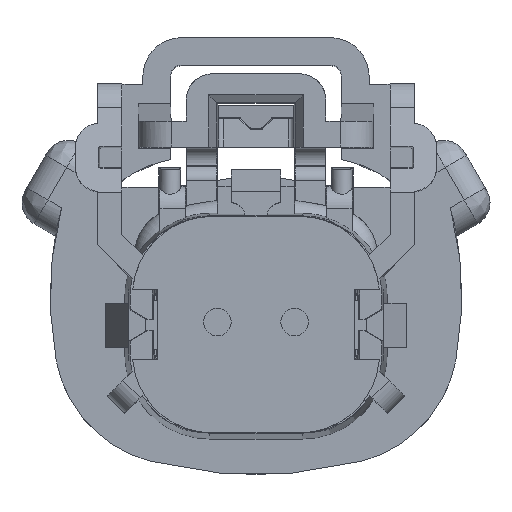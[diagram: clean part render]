
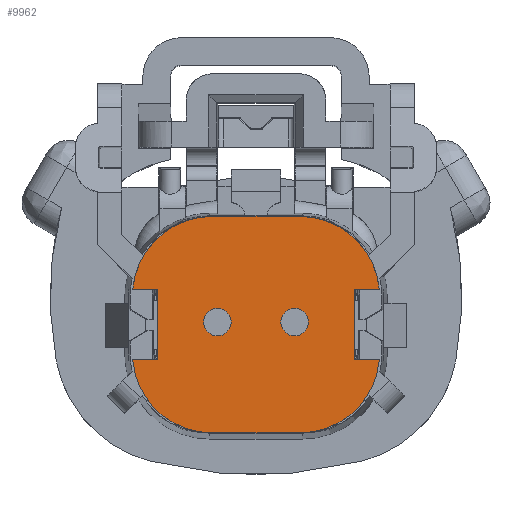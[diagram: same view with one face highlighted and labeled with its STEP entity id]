
A CAD part, top view. The second image highlights one B-rep face of the part: STEP entity #9962.
In plain terms, the highlighted planar face has unit normal (0, 0, 1).
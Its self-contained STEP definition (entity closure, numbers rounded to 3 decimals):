
#23=CARTESIAN_POINT('',(-58.852,-37.916,2.15));
#24=DIRECTION('',(0.,0.,1.));
#25=DIRECTION('',(-0.997,-0.083,0.));
#26=AXIS2_PLACEMENT_3D('',#23,#24,#25);
#28=DIRECTION('',(-1.,0.,0.));
#29=VECTOR('',#28,1.132);
#30=CARTESIAN_POINT('',(-61.307,-38.216,2.15));
#31=LINE('',#30,#29);
#32=DIRECTION('',(0.,-1.,0.));
#33=VECTOR('',#32,3.2);
#34=CARTESIAN_POINT('',(-61.307,-35.016,2.15));
#35=LINE('',#34,#33);
#36=DIRECTION('',(1.,0.,0.));
#37=VECTOR('',#36,1.132);
#38=CARTESIAN_POINT('',(-62.439,-35.016,2.15));
#39=LINE('',#38,#37);
#40=CARTESIAN_POINT('',(-58.852,-35.316,2.15));
#41=DIRECTION('',(0.,0.,1.));
#42=DIRECTION('',(0.,1.,0.));
#43=AXIS2_PLACEMENT_3D('',#40,#41,#42);
#45=CARTESIAN_POINT('',(-54.862,-35.316,2.15));
#46=DIRECTION('',(0.,0.,1.));
#47=DIRECTION('',(0.997,0.083,0.));
#48=AXIS2_PLACEMENT_3D('',#45,#46,#47);
#50=DIRECTION('',(0.,1.,0.));
#51=VECTOR('',#50,3.2);
#52=CARTESIAN_POINT('',(-52.407,-38.216,2.15));
#53=LINE('',#52,#51);
#54=CARTESIAN_POINT('',(-54.862,-37.916,2.15));
#55=DIRECTION('',(0.,0.,1.));
#56=DIRECTION('',(0.,-1.,0.));
#57=AXIS2_PLACEMENT_3D('',#54,#55,#56);
#59=CARTESIAN_POINT('',(-55.107,-36.499,2.15));
#60=DIRECTION('',(0.,0.,-1.));
#61=DIRECTION('',(1.,0.,0.));
#62=AXIS2_PLACEMENT_3D('',#59,#60,#61);
#64=CARTESIAN_POINT('',(-55.107,-36.499,2.15));
#65=DIRECTION('',(0.,0.,-1.));
#66=DIRECTION('',(-1.,0.,0.));
#67=AXIS2_PLACEMENT_3D('',#64,#65,#66);
#69=CARTESIAN_POINT('',(-58.607,-36.499,2.15));
#70=DIRECTION('',(0.,0.,-1.));
#71=DIRECTION('',(1.,0.,0.));
#72=AXIS2_PLACEMENT_3D('',#69,#70,#71);
#74=CARTESIAN_POINT('',(-58.607,-36.499,2.15));
#75=DIRECTION('',(0.,0.,-1.));
#76=DIRECTION('',(-1.,0.,0.));
#77=AXIS2_PLACEMENT_3D('',#74,#75,#76);
#595=DIRECTION('',(1.,0.,0.));
#596=VECTOR('',#595,3.99);
#597=CARTESIAN_POINT('',(-58.852,-31.716,2.15));
#598=LINE('',#597,#596);
#5607=DIRECTION('',(1.,0.,0.));
#5608=VECTOR('',#5607,1.132);
#5609=CARTESIAN_POINT('',(-52.407,-38.216,2.15));
#5610=LINE('',#5609,#5608);
#5623=DIRECTION('',(-1.,0.,0.));
#5624=VECTOR('',#5623,3.99);
#5625=CARTESIAN_POINT('',(-54.862,-41.516,2.15));
#5626=LINE('',#5625,#5624);
#5667=DIRECTION('',(-1.,0.,0.));
#5668=VECTOR('',#5667,1.132);
#5669=CARTESIAN_POINT('',(-51.274,-35.016,2.15));
#5670=LINE('',#5669,#5668);
#8017=CARTESIAN_POINT('',(-52.407,-38.216,2.15));
#8018=VERTEX_POINT('',#8017);
#8019=CARTESIAN_POINT('',(-51.274,-38.216,2.15));
#8020=VERTEX_POINT('',#8019);
#8034=CARTESIAN_POINT('',(-52.407,-35.016,2.15));
#8036=VERTEX_POINT('',#8034);
#9121=CARTESIAN_POINT('',(-54.862,-41.516,2.15));
#9122=CARTESIAN_POINT('',(-58.852,-41.516,2.15));
#9123=VERTEX_POINT('',#9121);
#9124=VERTEX_POINT('',#9122);
#9178=CARTESIAN_POINT('',(-58.852,-31.716,2.15));
#9179=CARTESIAN_POINT('',(-62.439,-35.016,2.15));
#9180=VERTEX_POINT('',#9178);
#9181=VERTEX_POINT('',#9179);
#9202=CARTESIAN_POINT('',(-62.439,-38.216,2.15));
#9203=VERTEX_POINT('',#9202);
#9204=CARTESIAN_POINT('',(-51.274,-35.016,2.15));
#9205=VERTEX_POINT('',#9204);
#9206=CARTESIAN_POINT('',(-54.862,-31.716,2.15));
#9207=VERTEX_POINT('',#9206);
#9208=CARTESIAN_POINT('',(-61.307,-35.016,2.15));
#9209=VERTEX_POINT('',#9208);
#9210=CARTESIAN_POINT('',(-61.307,-38.216,2.15));
#9211=VERTEX_POINT('',#9210);
#9212=CARTESIAN_POINT('',(-54.482,-36.499,2.15));
#9213=CARTESIAN_POINT('',(-55.732,-36.499,2.15));
#9214=VERTEX_POINT('',#9212);
#9215=VERTEX_POINT('',#9213);
#9216=CARTESIAN_POINT('',(-57.982,-36.499,2.15));
#9217=CARTESIAN_POINT('',(-59.232,-36.499,2.15));
#9218=VERTEX_POINT('',#9216);
#9219=VERTEX_POINT('',#9217);
#9920=CARTESIAN_POINT('',(-62.723,-41.765,2.15));
#9921=DIRECTION('',(0.,0.,1.));
#9922=DIRECTION('',(1.,0.,0.));
#9923=AXIS2_PLACEMENT_3D('',#9920,#9921,#9922);
#9924=PLANE('',#9923);
#9926=ORIENTED_EDGE('',*,*,#9925,.F.);
#9928=ORIENTED_EDGE('',*,*,#9927,.F.);
#9930=ORIENTED_EDGE('',*,*,#9929,.F.);
#9931=ORIENTED_EDGE('',*,*,#9906,.F.);
#9933=ORIENTED_EDGE('',*,*,#9932,.F.);
#9935=ORIENTED_EDGE('',*,*,#9934,.T.);
#9937=ORIENTED_EDGE('',*,*,#9936,.F.);
#9939=ORIENTED_EDGE('',*,*,#9938,.T.);
#9941=ORIENTED_EDGE('',*,*,#9940,.F.);
#9943=ORIENTED_EDGE('',*,*,#9942,.T.);
#9945=ORIENTED_EDGE('',*,*,#9944,.F.);
#9947=ORIENTED_EDGE('',*,*,#9946,.T.);
#9948=EDGE_LOOP('',(#9926,#9928,#9930,#9931,#9933,#9935,#9937,#9939,#9941,#9943,
#9945,#9947));
#9949=FACE_OUTER_BOUND('',#9948,.F.);
#9951=ORIENTED_EDGE('',*,*,#9950,.F.);
#9953=ORIENTED_EDGE('',*,*,#9952,.F.);
#9954=EDGE_LOOP('',(#9951,#9953));
#9955=FACE_BOUND('',#9954,.F.);
#9957=ORIENTED_EDGE('',*,*,#9956,.F.);
#9959=ORIENTED_EDGE('',*,*,#9958,.F.);
#9960=EDGE_LOOP('',(#9957,#9959));
#9961=FACE_BOUND('',#9960,.F.);
#9962=ADVANCED_FACE('',(#9949,#9955,#9961),#9924,.T.);
#27=CIRCLE('',#26,3.6);
#44=CIRCLE('',#43,3.6);
#49=CIRCLE('',#48,3.6);
#58=CIRCLE('',#57,3.6);
#63=CIRCLE('',#62,0.625);
#68=CIRCLE('',#67,0.625);
#73=CIRCLE('',#72,0.625);
#78=CIRCLE('',#77,0.625);
#9906=EDGE_CURVE('',#9181,#9209,#39,.T.);
#9925=EDGE_CURVE('',#9203,#9124,#27,.T.);
#9927=EDGE_CURVE('',#9211,#9203,#31,.T.);
#9929=EDGE_CURVE('',#9209,#9211,#35,.T.);
#9932=EDGE_CURVE('',#9180,#9181,#44,.T.);
#9934=EDGE_CURVE('',#9180,#9207,#598,.T.);
#9936=EDGE_CURVE('',#9205,#9207,#49,.T.);
#9938=EDGE_CURVE('',#9205,#8036,#5670,.T.);
#9940=EDGE_CURVE('',#8018,#8036,#53,.T.);
#9942=EDGE_CURVE('',#8018,#8020,#5610,.T.);
#9944=EDGE_CURVE('',#9123,#8020,#58,.T.);
#9946=EDGE_CURVE('',#9123,#9124,#5626,.T.);
#9950=EDGE_CURVE('',#9214,#9215,#63,.T.);
#9952=EDGE_CURVE('',#9215,#9214,#68,.T.);
#9956=EDGE_CURVE('',#9218,#9219,#73,.T.);
#9958=EDGE_CURVE('',#9219,#9218,#78,.T.);
